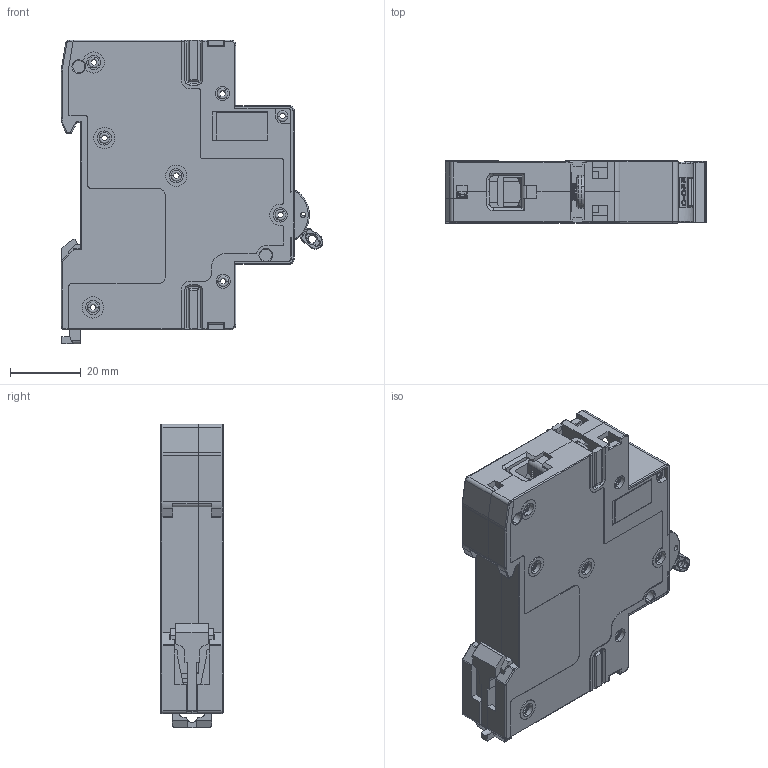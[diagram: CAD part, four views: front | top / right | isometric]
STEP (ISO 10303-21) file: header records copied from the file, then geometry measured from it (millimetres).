
FILE_DESCRIPTION (( 'STEP AP214' ), '1' );
FILE_NAME ('TDA-1B-10.STEP', '2026-05-26T12:19:08', ( '' ), ( '' ), 'SwSTEP 2.0', 'SolidWorks 2025', '' );
FILE_SCHEMA (( 'AUTOMOTIVE_DESIGN' ));
Length unit declared in the file: millimetre
Products named in the file (1): TDA-1B-10
Bounding box: 74.14 x 17.8 x 86 mm (x, y, z)
Volume: 28997.9 mm3; surface area: 42681.5 mm2
Topology: 23 solids, 25 shells, 2539 faces, 7559 edges, 5173 vertices
Faces by surface type: plane 1463, cylinder 773, bspline 149, torus 88, cone 66
Entity records: 141552 total; most frequent: CARTESIAN_POINT 49163, ORIENTED_EDGE 15086, DIRECTION 11808, EDGE_CURVE 7543, VERTEX_POINT 5173, LINE 4334, VECTOR 4334, AXIS2_PLACEMENT_3D 3737
